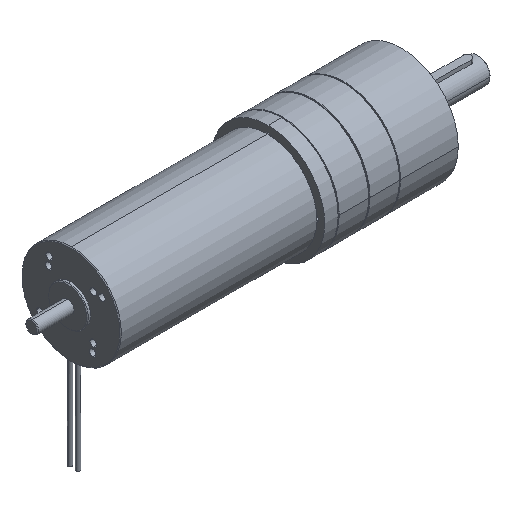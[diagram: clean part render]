
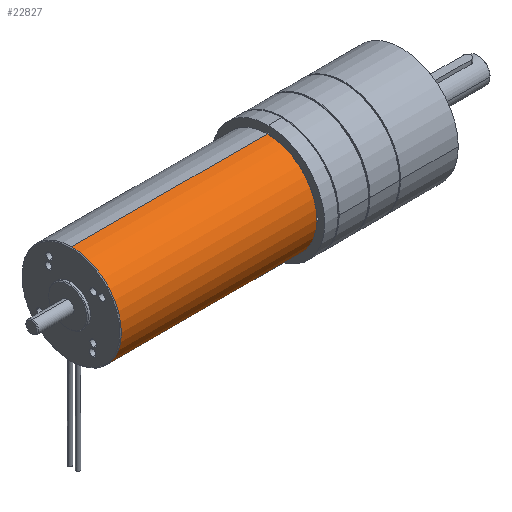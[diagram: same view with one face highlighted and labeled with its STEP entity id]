
A CAD part, isometric view. The second image highlights one B-rep face of the part: STEP entity #22827.
In plain terms, the highlighted cylindrical face has radius 31.5 mm (diameter 63 mm), a partial arc.
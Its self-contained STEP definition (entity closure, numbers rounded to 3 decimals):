
#142 = DIRECTION ( 'NONE',  ( 0., 0., -1. ) ) ;
#305 = VERTEX_POINT ( 'NONE', #15219 ) ;
#367 = CARTESIAN_POINT ( 'NONE',  ( 27.826, -3.441, -31.312 ) ) ;
#544 = CARTESIAN_POINT ( 'NONE',  ( 25.5, 0., 31.5 ) ) ;
#552 = CARTESIAN_POINT ( 'NONE',  ( 27.327, -3.718, -31.28 ) ) ;
#789 = FACE_BOUND ( 'NONE', #13954, .T. ) ;
#867 = EDGE_LOOP ( 'NONE', ( #19471, #2113, #26931, #30486 ) ) ;
#1970 = VERTEX_POINT ( 'NONE', #544 ) ;
#2053 = CARTESIAN_POINT ( 'NONE',  ( 26.837, -1.25, -31.475 ) ) ;
#2113 = ORIENTED_EDGE ( 'NONE', *, *, #4627, .T. ) ;
#2867 = CARTESIAN_POINT ( 'NONE',  ( 25.5, 0., 0. ) ) ;
#3625 = CARTESIAN_POINT ( 'NONE',  ( 27.164, -3.75, -31.276 ) ) ;
#3804 = CARTESIAN_POINT ( 'NONE',  ( 27.554, -3.623, -31.291 ) ) ;
#4627 = EDGE_CURVE ( 'NONE', #23969, #305, #12041, .T. ) ;
#4703 = AXIS2_PLACEMENT_3D ( 'NONE', #28580, #33607, #25506 ) ;
#5804 = CARTESIAN_POINT ( 'NONE',  ( 27.762, -3.494, -31.306 ) ) ;
#6358 = CARTESIAN_POINT ( 'NONE',  ( 25.75, -2.5, -31.401 ) ) ;
#7248 = VERTEX_POINT ( 'NONE', #17621 ) ;
#7251 = CARTESIAN_POINT ( 'NONE',  ( 28.25, -2.665, -31.387 ) ) ;
#7305 = CARTESIAN_POINT ( 'NONE',  ( 25.79, -2.176, -31.425 ) ) ;
#9432 = CARTESIAN_POINT ( 'NONE',  ( 26., -3.267, -31.33 ) ) ;
#9664 = CARTESIAN_POINT ( 'NONE',  ( 25.758, -2.336, -31.413 ) ) ;
#9851 = CARTESIAN_POINT ( 'NONE',  ( 26.673, -1.282, -31.474 ) ) ;
#10023 = CARTESIAN_POINT ( 'NONE',  ( 27.942, -1.674, -31.456 ) ) ;
#10202 = CARTESIAN_POINT ( 'NONE',  ( 28.218, -2.173, -31.425 ) ) ;
#10381 = CARTESIAN_POINT ( 'NONE',  ( 28.124, -1.946, -31.44 ) ) ;
#10847 = DIRECTION ( 'NONE',  ( -1., 0., 0. ) ) ;
#11597 = CARTESIAN_POINT ( 'NONE',  ( 28.092, -3.129, -31.345 ) ) ;
#11909 = EDGE_CURVE ( 'NONE', #23969, #30196, #13552, .T. ) ;
#12041 = CIRCLE ( 'NONE', #32180, 31.5 ) ;
#12187 = CARTESIAN_POINT ( 'NONE',  ( 149.5, 0., -31.5 ) ) ;
#12356 = CARTESIAN_POINT ( 'NONE',  ( 25.999, -1.733, -31.452 ) ) ;
#12663 = CARTESIAN_POINT ( 'NONE',  ( 28.25, -2.5, -31.401 ) ) ;
#13066 = CARTESIAN_POINT ( 'NONE',  ( 27.328, -1.283, -31.474 ) ) ;
#13170 = VERTEX_POINT ( 'NONE', #23079 ) ;
#13552 = LINE ( 'NONE', #35342, #15974 ) ;
#13895 = DIRECTION ( 'NONE',  ( 1., 0., 0. ) ) ;
#13954 = EDGE_LOOP ( 'NONE', ( #24156, #14615 ) ) ;
#14291 = CARTESIAN_POINT ( 'NONE',  ( 26.23, -3.498, -31.305 ) ) ;
#14615 = ORIENTED_EDGE ( 'NONE', *, *, #23203, .T. ) ;
#15219 = CARTESIAN_POINT ( 'NONE',  ( 149.5, 0., 31.5 ) ) ;
#15420 = CARTESIAN_POINT ( 'NONE',  ( 28.25, -2.5, -31.401 ) ) ;
#15958 = CARTESIAN_POINT ( 'NONE',  ( 28.25, -2.335, -31.414 ) ) ;
#15974 = VECTOR ( 'NONE', #10847, 1000. ) ;
#16819 = CARTESIAN_POINT ( 'NONE',  ( 27.999, -3.268, -31.33 ) ) ;
#16990 = CARTESIAN_POINT ( 'NONE',  ( 25.75, -2.663, -31.388 ) ) ;
#17269 = EDGE_CURVE ( 'NONE', #13170, #7248, #20485, .T. ) ;
#17367 = CARTESIAN_POINT ( 'NONE',  ( 25.907, -3.128, -31.345 ) ) ;
#17542 = CARTESIAN_POINT ( 'NONE',  ( 25.783, -2.827, -31.373 ) ) ;
#17621 = CARTESIAN_POINT ( 'NONE',  ( 25.75, -2.5, -31.401 ) ) ;
#18128 = CARTESIAN_POINT ( 'NONE',  ( 25.907, -1.871, -31.445 ) ) ;
#18835 = DIRECTION ( 'NONE',  ( -1., 0., 0. ) ) ;
#19471 = ORIENTED_EDGE ( 'NONE', *, *, #11909, .F. ) ;
#20288 = CYLINDRICAL_SURFACE ( 'NONE', #4703, 31.5 ) ;
#20421 = CARTESIAN_POINT ( 'NONE',  ( 27.626, -3.585, -31.295 ) ) ;
#20485 = B_SPLINE_CURVE_WITH_KNOTS ( 'NONE', 3,
 ( #15420, #15958, #10202, #10381, #34698, #21366, #10023, #31648, #21012, #13066, #20846, #2053, #9851, #34332, #26609, #12356, #18128, #29298, #7305, #9664, #23880, #32003 ),
 .UNSPECIFIED., .F., .F.,
 ( 4, 2, 2, 2, 2, 2, 2, 2, 2, 2, 4 ),
 ( 0., 0., 0.001, 0.001, 0.001, 0.002, 0.002, 0.003, 0.003, 0.004, 0.004 ),
 .UNSPECIFIED. ) ;
#20846 = CARTESIAN_POINT ( 'NONE',  ( 27.164, -1.25, -31.475 ) ) ;
#21012 = CARTESIAN_POINT ( 'NONE',  ( 27.629, -1.408, -31.469 ) ) ;
#21366 = CARTESIAN_POINT ( 'NONE',  ( 27.995, -1.739, -31.452 ) ) ;
#22570 = CARTESIAN_POINT ( 'NONE',  ( 28.217, -2.829, -31.373 ) ) ;
#22777 = B_SPLINE_CURVE_WITH_KNOTS ( 'NONE', 3,
 ( #6358, #16990, #17542, #17367, #9432, #14291, #28360, #25278, #25089, #3625, #552, #3804, #20421, #5804, #367, #16819, #11597, #22570, #7251, #12663 ),
 .UNSPECIFIED., .F., .F.,
 ( 4, 2, 2, 2, 2, 2, 2, 2, 2, 4 ),
 ( 0.004, 0.004, 0.005, 0.005, 0.006, 0.006, 0.007, 0.007, 0.007, 0.008 ),
 .UNSPECIFIED. ) ;
#22827 = ADVANCED_FACE ( 'NONE', ( #28219, #789 ), #20288, .T. ) ;
#23079 = CARTESIAN_POINT ( 'NONE',  ( 28.25, -2.5, -31.401 ) ) ;
#23203 = EDGE_CURVE ( 'NONE', #7248, #13170, #22777, .T. ) ;
#23329 = CARTESIAN_POINT ( 'NONE',  ( -195.728, 0., 31.5 ) ) ;
#23490 = EDGE_CURVE ( 'NONE', #1970, #30196, #23732, .T. ) ;
#23732 = CIRCLE ( 'NONE', #28358, 31.5 ) ;
#23880 = CARTESIAN_POINT ( 'NONE',  ( 25.75, -2.419, -31.407 ) ) ;
#23969 = VERTEX_POINT ( 'NONE', #12187 ) ;
#24156 = ORIENTED_EDGE ( 'NONE', *, *, #17269, .T. ) ;
#25089 = CARTESIAN_POINT ( 'NONE',  ( 26.834, -3.75, -31.276 ) ) ;
#25122 = VECTOR ( 'NONE', #26416, 1000. ) ;
#25278 = CARTESIAN_POINT ( 'NONE',  ( 26.671, -3.717, -31.28 ) ) ;
#25506 = DIRECTION ( 'NONE',  ( 0., 0., 1. ) ) ;
#26059 = LINE ( 'NONE', #23329, #25122 ) ;
#26416 = DIRECTION ( 'NONE',  ( -1., 0., 0. ) ) ;
#26439 = DIRECTION ( 'NONE',  ( 0., 0., 1. ) ) ;
#26609 = CARTESIAN_POINT ( 'NONE',  ( 26.232, -1.5, -31.464 ) ) ;
#26857 = CARTESIAN_POINT ( 'NONE',  ( 25.5, 0., -31.5 ) ) ;
#26931 = ORIENTED_EDGE ( 'NONE', *, *, #32482, .T. ) ;
#28219 = FACE_OUTER_BOUND ( 'NONE', #867, .T. ) ;
#28358 = AXIS2_PLACEMENT_3D ( 'NONE', #2867, #13895, #142 ) ;
#28360 = CARTESIAN_POINT ( 'NONE',  ( 26.368, -3.591, -31.295 ) ) ;
#28580 = CARTESIAN_POINT ( 'NONE',  ( -195.728, 0., 0. ) ) ;
#29298 = CARTESIAN_POINT ( 'NONE',  ( 25.814, -2.098, -31.43 ) ) ;
#30196 = VERTEX_POINT ( 'NONE', #26857 ) ;
#30486 = ORIENTED_EDGE ( 'NONE', *, *, #23490, .T. ) ;
#31648 = CARTESIAN_POINT ( 'NONE',  ( 27.769, -1.501, -31.464 ) ) ;
#32003 = CARTESIAN_POINT ( 'NONE',  ( 25.75, -2.5, -31.401 ) ) ;
#32180 = AXIS2_PLACEMENT_3D ( 'NONE', #32536, #18835, #26439 ) ;
#32482 = EDGE_CURVE ( 'NONE', #305, #1970, #26059, .T. ) ;
#32536 = CARTESIAN_POINT ( 'NONE',  ( 149.5, 0., 0. ) ) ;
#33607 = DIRECTION ( 'NONE',  ( -1., 0., 0. ) ) ;
#34332 = CARTESIAN_POINT ( 'NONE',  ( 26.37, -1.408, -31.469 ) ) ;
#34698 = CARTESIAN_POINT ( 'NONE',  ( 28.085, -1.875, -31.444 ) ) ;
#35342 = CARTESIAN_POINT ( 'NONE',  ( -195.728, 0., -31.5 ) ) ;
